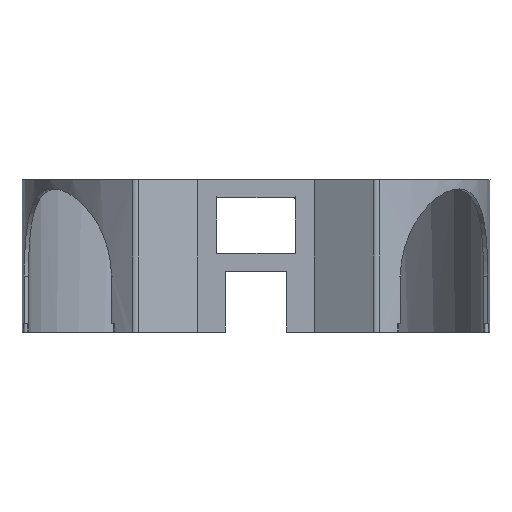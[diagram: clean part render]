
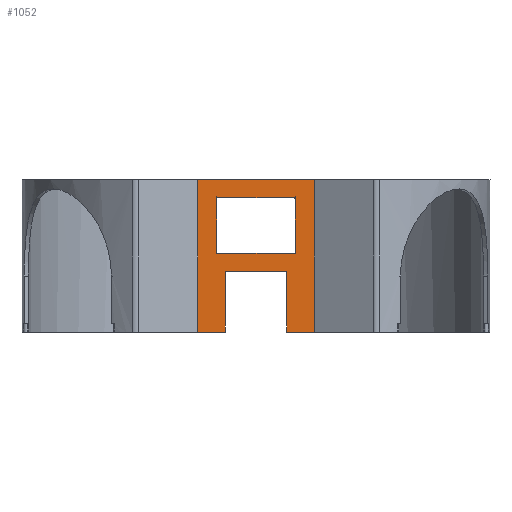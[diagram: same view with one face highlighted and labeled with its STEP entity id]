
A CAD part, front view. The second image highlights one B-rep face of the part: STEP entity #1052.
In plain terms, the highlighted planar face has unit normal (0, -1, 0).
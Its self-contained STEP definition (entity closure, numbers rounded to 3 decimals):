
#22=FACE_BOUND('',#160,.T.);
#48=PLANE('',#1165);
#101=FACE_OUTER_BOUND('',#159,.T.);
#159=EDGE_LOOP('',(#910,#911,#912,#913,#914,#915,#916,#917));
#160=EDGE_LOOP('',(#918,#919,#920,#921));
#195=LINE('',#1602,#289);
#206=LINE('',#1653,#300);
#238=LINE('',#1840,#332);
#254=LINE('',#1978,#348);
#255=LINE('',#1980,#349);
#256=LINE('',#1981,#350);
#257=LINE('',#1983,#351);
#258=LINE('',#1984,#352);
#259=LINE('',#1987,#353);
#260=LINE('',#1989,#354);
#261=LINE('',#1991,#355);
#262=LINE('',#1992,#356);
#289=VECTOR('',#1291,10.);
#300=VECTOR('',#1338,10.);
#332=VECTOR('',#1418,10.);
#348=VECTOR('',#1456,10.);
#349=VECTOR('',#1457,10.);
#350=VECTOR('',#1458,10.);
#351=VECTOR('',#1459,10.);
#352=VECTOR('',#1460,10.);
#353=VECTOR('',#1461,10.);
#354=VECTOR('',#1462,10.);
#355=VECTOR('',#1463,10.);
#356=VECTOR('',#1464,10.);
#452=VERTEX_POINT('',#1599);
#453=VERTEX_POINT('',#1601);
#474=VERTEX_POINT('',#1650);
#475=VERTEX_POINT('',#1652);
#504=VERTEX_POINT('',#1839);
#513=VERTEX_POINT('',#1977);
#514=VERTEX_POINT('',#1979);
#515=VERTEX_POINT('',#1982);
#516=VERTEX_POINT('',#1985);
#517=VERTEX_POINT('',#1986);
#518=VERTEX_POINT('',#1988);
#519=VERTEX_POINT('',#1990);
#566=EDGE_CURVE('',#452,#453,#195,.F.);
#591=EDGE_CURVE('',#474,#475,#206,.F.);
#637=EDGE_CURVE('',#475,#504,#238,.F.);
#658=EDGE_CURVE('',#474,#513,#254,.F.);
#659=EDGE_CURVE('',#513,#514,#255,.F.);
#660=EDGE_CURVE('',#514,#453,#256,.F.);
#661=EDGE_CURVE('',#452,#515,#257,.F.);
#662=EDGE_CURVE('',#504,#515,#258,.T.);
#663=EDGE_CURVE('',#516,#517,#259,.F.);
#664=EDGE_CURVE('',#517,#518,#260,.F.);
#665=EDGE_CURVE('',#518,#519,#261,.F.);
#666=EDGE_CURVE('',#519,#516,#262,.T.);
#910=ORIENTED_EDGE('',*,*,#658,.T.);
#911=ORIENTED_EDGE('',*,*,#659,.T.);
#912=ORIENTED_EDGE('',*,*,#660,.T.);
#913=ORIENTED_EDGE('',*,*,#566,.F.);
#914=ORIENTED_EDGE('',*,*,#661,.T.);
#915=ORIENTED_EDGE('',*,*,#662,.F.);
#916=ORIENTED_EDGE('',*,*,#637,.F.);
#917=ORIENTED_EDGE('',*,*,#591,.F.);
#918=ORIENTED_EDGE('',*,*,#663,.T.);
#919=ORIENTED_EDGE('',*,*,#664,.T.);
#920=ORIENTED_EDGE('',*,*,#665,.T.);
#921=ORIENTED_EDGE('',*,*,#666,.T.);
#1052=ADVANCED_FACE('',(#101,#22),#48,.T.);
#1165=AXIS2_PLACEMENT_3D('',#1976,#1454,#1455);
#1291=DIRECTION('',(1.,0.,0.));
#1338=DIRECTION('',(1.,0.,0.));
#1418=DIRECTION('',(0.,0.,-1.));
#1454=DIRECTION('center_axis',(0.,-1.,0.));
#1455=DIRECTION('ref_axis',(1.,0.,0.));
#1456=DIRECTION('',(0.,0.,-1.));
#1457=DIRECTION('',(-1.,0.,0.));
#1458=DIRECTION('',(0.,0.,1.));
#1459=DIRECTION('',(0.,0.,-1.));
#1460=DIRECTION('',(1.,0.,0.));
#1461=DIRECTION('',(-1.,0.,0.));
#1462=DIRECTION('',(0.,0.,1.));
#1463=DIRECTION('',(1.,0.,0.));
#1464=DIRECTION('',(0.,0.,1.));
#1599=CARTESIAN_POINT('',(21.072,-59.509,-20.25));
#1601=CARTESIAN_POINT('',(11.2,-59.509,-20.25));
#1602=CARTESIAN_POINT('',(-10.509,-59.509,-20.25));
#1650=CARTESIAN_POINT('',(-11.2,-59.509,-20.25));
#1652=CARTESIAN_POINT('',(-21.072,-59.509,-20.25));
#1653=CARTESIAN_POINT('',(-10.509,-59.509,-20.25));
#1839=CARTESIAN_POINT('',(-21.072,-59.509,34.75));
#1840=CARTESIAN_POINT('',(-21.072,-59.509,-20.25));
#1976=CARTESIAN_POINT('Origin',(-21.018,-59.509,-20.25));
#1977=CARTESIAN_POINT('',(-11.2,-59.509,1.75));
#1978=CARTESIAN_POINT('',(-11.2,-59.509,-21.75));
#1979=CARTESIAN_POINT('',(11.2,-59.509,1.75));
#1980=CARTESIAN_POINT('',(-16.109,-59.509,1.75));
#1981=CARTESIAN_POINT('',(11.2,-59.509,-9.25));
#1982=CARTESIAN_POINT('',(21.072,-59.509,34.75));
#1983=CARTESIAN_POINT('',(21.072,-59.509,-20.25));
#1984=CARTESIAN_POINT('',(-10.509,-59.509,34.75));
#1985=CARTESIAN_POINT('',(-14.2,-59.509,28.27));
#1986=CARTESIAN_POINT('',(14.2,-59.509,28.27));
#1987=CARTESIAN_POINT('',(14.,-59.509,28.27));
#1988=CARTESIAN_POINT('',(14.2,-59.509,8.25));
#1989=CARTESIAN_POINT('',(14.2,-59.509,1.67));
#1990=CARTESIAN_POINT('',(-14.2,-59.509,8.25));
#1991=CARTESIAN_POINT('',(-3.509,-59.509,8.25));
#1992=CARTESIAN_POINT('',(-14.2,-59.509,1.67));
